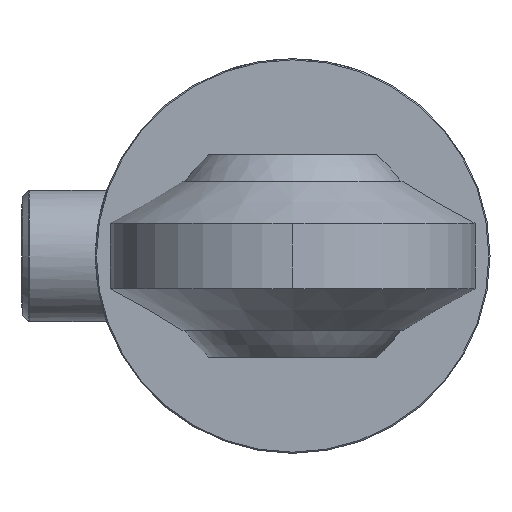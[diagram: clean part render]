
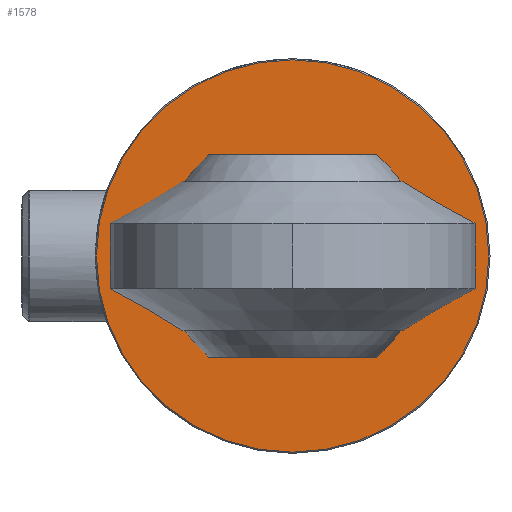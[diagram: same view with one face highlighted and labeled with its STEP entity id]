
A CAD part, left-side view. The second image highlights one B-rep face of the part: STEP entity #1578.
In plain terms, the highlighted planar face has unit normal (-1, 0, 0).
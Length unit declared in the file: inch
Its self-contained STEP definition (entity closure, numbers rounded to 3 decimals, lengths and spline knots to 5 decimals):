
#1555=CARTESIAN_POINT('',(0.,1.68,0.0));
#1556=VERTEX_POINT('',#1555);
#1557=CARTESIAN_POINT('',(0.,0.0,0.0));
#1558=DIRECTION('',(1.0,0.0,0.0));
#1559=DIRECTION('',(0.0,-1.0,0.0));
#1560=AXIS2_PLACEMENT_3D('',#1557,#1558,#1559);
#1561=CIRCLE('',#1560,1.68);
#1562=EDGE_CURVE('',#1556,#1556,#1561,.T.);
#1570=CARTESIAN_POINT('',(0.,0.845,0.0));
#1571=DIRECTION('',(-1.0,0.0,0.0));
#1572=DIRECTION('',(0.0,0.0,1.0));
#1573=AXIS2_PLACEMENT_3D('',#1570,#1571,#1572);
#1574=PLANE('',#1573);
#1575=ORIENTED_EDGE('',*,*,#1562,.F.);
#1576=EDGE_LOOP('',(#1575));
#1577=FACE_OUTER_BOUND('',#1576,.T.);
#1578=ADVANCED_FACE('',(#1577),#1574,.T.);
